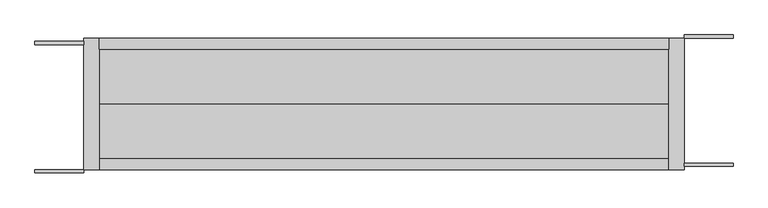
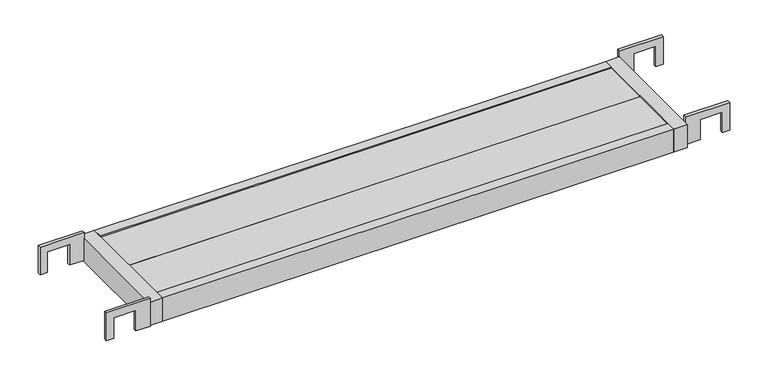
"""IFC4 building model written with IfcOpenShell, lengths in millimetres: proxy geometry, AKK布板HF-212_斜線なし_軽 : 鋼製布板 HF-212."""

from ifc_helpers import new_model, si_unit, frame, origin, place, context, project, spatial, polyline, outline, extrude, source, transform, mapped, element, save


def generic_models_fa205c5b(model_context):
    return source(origin(), model_context, "Body", "SweptSolid", [
        extrude(outline(polyline([(37.5, 1157.5), (-22.0, 1157.5), (-22.0, 1187.0), (22.0, 1187.0), (22.0, 1232.0), (-22.0, 1232.0), (-22.0, 1247.0), (37.5, 1247.0), (37.5, 1157.5)])), frame((0.0, 12.0, 0.0), z_axis=(0.0, 1.0, 0.0), x_axis=(0.0, 0.0, 1.0)), (0.0, 0.0, 1.0), 6.0),
        extrude(outline(polyline([(37.5, 1157.5), (-22.0, 1157.5), (-22.0, 1187.0), (22.0, 1187.0), (22.0, 1232.0), (-22.0, 1232.0), (-22.0, 1247.0), (37.5, 1247.0), (37.5, 1157.5)])), frame((0.0, 246.0, 0.0), z_axis=(0.0, 1.0, 0.0), x_axis=(0.0, 0.0, 1.0)), (0.0, 0.0, 1.0), 6.0),
        extrude(outline(polyline([(37.5, -28.0), (-22.0, -28.0), (-22.0, -13.0), (22.0, -13.0), (22.0, 32.0), (-22.0, 32.0), (-22.0, 61.5), (37.5, 61.5), (37.5, -28.0)])), frame((0.0, 0.0, 0.0), z_axis=(0.0, 1.0, 0.0), x_axis=(0.0, 0.0, 1.0)), (0.0, 0.0, 1.0), 6.0),
        extrude(outline(polyline([(37.5, -28.0), (-22.0, -28.0), (-22.0, -13.0), (22.0, -13.0), (22.0, 32.0), (-22.0, 32.0), (-22.0, 61.5), (37.5, 61.5), (37.5, -28.0)])), frame((0.0, 234.0, 0.0), z_axis=(0.0, 1.0, 0.0), x_axis=(0.0, 0.0, 1.0)), (0.0, 0.0, 1.0), 6.0),
        extrude(outline(polyline([(1129.5, 226.0), (1129.5, 126.0), (89.5, 126.0), (89.5, 226.0), (1129.5, 226.0)])), frame((0.0, 0.0, 17.5), z_axis=(0.0, 0.0, 1.0), x_axis=(1.0, 0.0, 0.0)), (0.0, 0.0, 1.0), 5.0),
        extrude(outline(polyline([(1129.5, 126.0), (1129.5, 26.0), (89.5, 26.0), (89.5, 126.0), (1129.5, 126.0)])), frame((0.0, 0.0, 17.5), z_axis=(0.0, 0.0, 1.0), x_axis=(1.0, 0.0, 0.0)), (0.0, 0.0, 1.0), 5.0),
        extrude(outline(polyline([(1129.5, 246.0), (1129.5, 226.0), (89.5, 226.0), (89.5, 246.0), (1129.5, 246.0)])), frame((0.0, 0.0, -25.0), z_axis=(0.0, 0.0, 1.0), x_axis=(1.0, 0.0, 0.0)), (0.0, 0.0, 1.0), 50.0),
        extrude(outline(polyline([(1129.5, 6.0), (1129.5, 246.0), (1157.5, 246.0), (1157.5, 6.0), (1129.5, 6.0)])), frame((0.0, 0.0, -25.0), z_axis=(0.0, 0.0, 1.0), x_axis=(1.0, 0.0, 0.0)), (0.0, 0.0, 1.0), 50.0),
        extrude(outline(polyline([(61.5, 6.0), (61.5, 246.0), (89.5, 246.0), (89.5, 6.0), (61.5, 6.0)])), frame((0.0, 0.0, -25.0), z_axis=(0.0, 0.0, 1.0), x_axis=(1.0, 0.0, 0.0)), (0.0, 0.0, 1.0), 50.0),
        extrude(outline(polyline([(1129.5, 26.0), (1129.5, 6.0), (89.5, 6.0), (89.5, 26.0), (1129.5, 26.0)])), frame((0.0, 0.0, -25.0), z_axis=(0.0, 0.0, 1.0), x_axis=(1.0, 0.0, 0.0)), (0.0, 0.0, 1.0), 50.0),
    ])


if __name__ == "__main__":
    model = new_model("IFC4")
    model_context = context("Model", 3, world=origin())
    ifc_project = project(units=[si_unit("LENGTHUNIT", "METRE", prefix="MILLI")], contexts=[model_context])
    site = spatial("IfcSite", under=ifc_project)
    building = spatial("IfcBuilding", under=site)
    placement = place(None, origin())
    generic_models_shape = generic_models_fa205c5b(model_context)
    element("IfcBuildingElementProxy", 1, Name="AKK布板HF-212_斜線なし_軽 : 鋼製布板 HF-212", ObjectType="AKK布板HF-212_斜線なし_軽 : 鋼製布板 HF-212", at=placement, inside=building, context=model_context, shape_type="MappedRepresentation", body=[
        mapped(generic_models_shape, transform((0.0, 0.0, 0.0), x_axis=(1.0, 0.0, 0.0), y_axis=(0.0, 1.0, 0.0), z_axis=(0.0, 0.0, 1.0))),
    ])
    save(model, "model.ifc")
